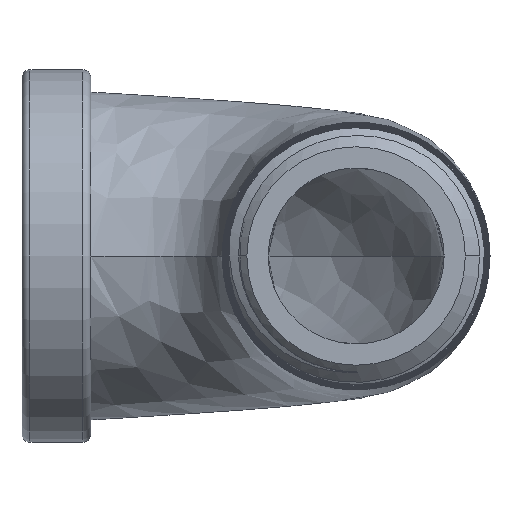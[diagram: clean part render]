
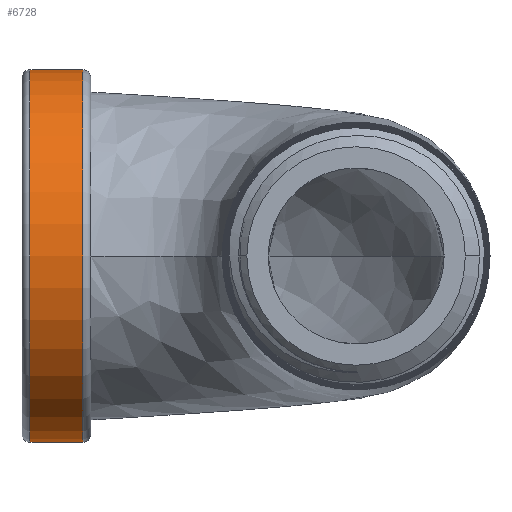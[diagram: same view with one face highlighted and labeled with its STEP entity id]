
A CAD part, left-side view. The second image highlights one B-rep face of the part: STEP entity #6728.
In plain terms, the highlighted cylindrical face has radius 18.542 mm (diameter 37.084 mm), a partial arc.
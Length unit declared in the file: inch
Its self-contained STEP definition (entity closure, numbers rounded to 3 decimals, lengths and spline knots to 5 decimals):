
#319 = CARTESIAN_POINT ( 'NONE',  ( 0., 1.27875, 0.73 ) ) ;
#637 = CARTESIAN_POINT ( 'NONE',  ( 0., 1.27875, -0.73 ) ) ;
#1132 = CARTESIAN_POINT ( 'NONE',  ( 0., 1.27875, 0. ) ) ;
#1230 = VERTEX_POINT ( 'NONE', #637 ) ;
#1476 = VERTEX_POINT ( 'NONE', #9184 ) ;
#1675 = ORIENTED_EDGE ( 'NONE', *, *, #5417, .F. ) ;
#1693 = CARTESIAN_POINT ( 'NONE',  ( 0., 1.07125, 0. ) ) ;
#1722 = CARTESIAN_POINT ( 'NONE',  ( 0., 0., 0. ) ) ;
#1730 = ORIENTED_EDGE ( 'NONE', *, *, #4482, .T. ) ;
#2123 = CIRCLE ( 'NONE', #4197, 0.73 ) ;
#2416 = CARTESIAN_POINT ( 'NONE',  ( 0., 1.07125, 0.73 ) ) ;
#2493 = CARTESIAN_POINT ( 'NONE',  ( 0., 0., 0.73 ) ) ;
#2518 = DIRECTION ( 'NONE',  ( 0., 0., -1. ) ) ;
#3002 = VERTEX_POINT ( 'NONE', #2416 ) ;
#3158 = AXIS2_PLACEMENT_3D ( 'NONE', #1722, #10719, #5034 ) ;
#3619 = DIRECTION ( 'NONE',  ( 0., 0., 1. ) ) ;
#4197 = AXIS2_PLACEMENT_3D ( 'NONE', #1132, #5309, #3619 ) ;
#4219 = CYLINDRICAL_SURFACE ( 'NONE', #3158, 0.73 ) ;
#4482 = EDGE_CURVE ( 'NONE', #1230, #1476, #5587, .T. ) ;
#4788 = DIRECTION ( 'NONE',  ( 0., -1., 0. ) ) ;
#5034 = DIRECTION ( 'NONE',  ( 0., 0., -1. ) ) ;
#5309 = DIRECTION ( 'NONE',  ( 0., -1., 0. ) ) ;
#5417 = EDGE_CURVE ( 'NONE', #6319, #3002, #5777, .T. ) ;
#5587 = LINE ( 'NONE', #5752, #8376 ) ;
#5752 = CARTESIAN_POINT ( 'NONE',  ( 0., 0., -0.73 ) ) ;
#5777 = LINE ( 'NONE', #2493, #7138 ) ;
#6253 = EDGE_CURVE ( 'NONE', #6319, #1230, #2123, .T. ) ;
#6319 = VERTEX_POINT ( 'NONE', #319 ) ;
#6650 = FACE_OUTER_BOUND ( 'NONE', #9099, .T. ) ;
#6728 = ADVANCED_FACE ( 'NONE', ( #6650 ), #4219, .T. ) ;
#6979 = CIRCLE ( 'NONE', #9077, 0.73 ) ;
#7138 = VECTOR ( 'NONE', #7407, 39.37008 ) ;
#7407 = DIRECTION ( 'NONE',  ( 0., -1., 0. ) ) ;
#7798 = EDGE_CURVE ( 'NONE', #1476, #3002, #6979, .T. ) ;
#8319 = ORIENTED_EDGE ( 'NONE', *, *, #7798, .T. ) ;
#8376 = VECTOR ( 'NONE', #4788, 39.37008 ) ;
#9077 = AXIS2_PLACEMENT_3D ( 'NONE', #1693, #9946, #2518 ) ;
#9099 = EDGE_LOOP ( 'NONE', ( #1675, #10155, #1730, #8319 ) ) ;
#9184 = CARTESIAN_POINT ( 'NONE',  ( 0., 1.07125, -0.73 ) ) ;
#9946 = DIRECTION ( 'NONE',  ( 0., 1., 0. ) ) ;
#10155 = ORIENTED_EDGE ( 'NONE', *, *, #6253, .T. ) ;
#10719 = DIRECTION ( 'NONE',  ( 0., -1., 0. ) ) ;
